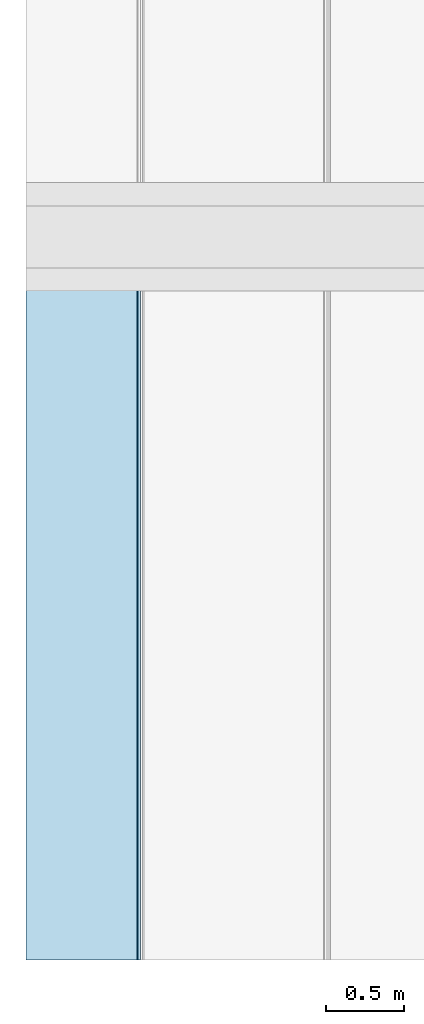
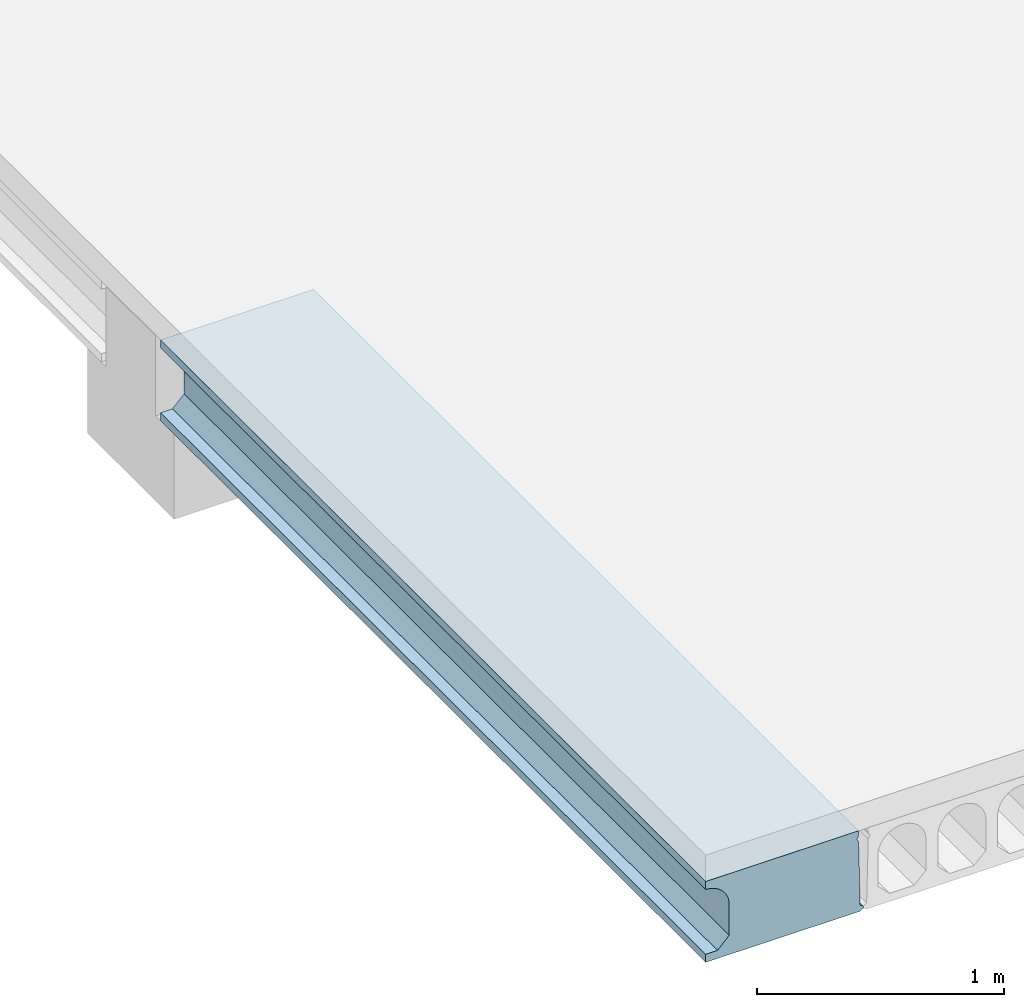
# One storey, part 38 of 98: 1 slab.
"""IFC2X3 building model written with IfcOpenShell, lengths in millimetres."""

from ifc_helpers import new_model, entity, si_unit, converted_unit, derived_unit, direction, frame, origin_with_axes, place, context, subcontext, project, spatial, faceted_brep, type_object, element, save


model = new_model("IFC2X3")

# Units and contexts
model_context = context("Model", 3, precision=0.01, world=frame((0.0, 4.29681676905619e-09, 0.0)), true_north=direction((4.01073788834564e-13, 1.0)))
plan_context = context("Plan", 3, precision=0.01, world=frame((0.0, 4.29681676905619e-09, 0.0)), true_north=direction((4.01073788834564e-13, 1.0)))
body_context = subcontext(model_context, "Body", "Model", "MODEL_VIEW")
ifc_project = project(units=[converted_unit("PLANEANGLEUNIT", "DEGREE", entity("IfcPositiveLengthMeasure", 0.0174532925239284), si_unit("PLANEANGLEUNIT", "RADIAN"), dimensions=[0, 0, 0, 0, 0, 0, 0]), si_unit("AREAUNIT", "SQUARE_METRE"), si_unit("LENGTHUNIT", "METRE", prefix="MILLI"), si_unit("MASSUNIT", "GRAM", prefix="KILO"), si_unit("POWERUNIT", "WATT"), si_unit("PRESSUREUNIT", "PASCAL"), si_unit("FORCEUNIT", "NEWTON", prefix="KILO"), si_unit("ELECTRICCURRENTUNIT", "AMPERE"), si_unit("THERMODYNAMICTEMPERATUREUNIT", "DEGREE_CELSIUS"), si_unit("TIMEUNIT", "SECOND"), si_unit("VOLUMEUNIT", "CUBIC_METRE"), derived_unit("LINEARVELOCITYUNIT", [(si_unit("LENGTHUNIT", "METRE"), 1), (si_unit("TIMEUNIT", "SECOND"), -1)]), derived_unit("VOLUMETRICFLOWRATEUNIT", [(si_unit("VOLUMEUNIT", "CUBIC_METRE"), 1), (si_unit("TIMEUNIT", "SECOND"), -1)]), derived_unit("THERMALTRANSMITTANCEUNIT", [(si_unit("POWERUNIT", "WATT"), 1), (si_unit("THERMODYNAMICTEMPERATUREUNIT", "KELVIN"), -1), (si_unit("AREAUNIT", "SQUARE_METRE"), -1)])], contexts=[model_context, plan_context])

# Site, building, storey
site_placement = place(None, frame((0.0, -4.29681676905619e-09, 0.0), z_axis=(0.0, 0.0, 1.0), x_axis=(1.0, 0.0, 0.0)))
site = spatial("IfcSite", under=ifc_project, at=site_placement, Name="Gardermoen", CompositionType="ELEMENT")
building_placement = place(site_placement, frame((0.0, 4.29681676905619e-09, 0.0), z_axis=(0.0, 0.0, 1.0), x_axis=(1.0, 0.0, 0.0)))
building = spatial("IfcBuilding", under=site, at=building_placement, Name="TS", CompositionType="ELEMENT")
storey_placement = place(building_placement, origin_with_axes())
storey = spatial("IfcBuildingStorey", under=building, at=storey_placement, Name="D", CompositionType="ELEMENT", Elevation=0.0)

# Slab
slab_type = type_object("IfcSlabType", Name="HD400", PredefinedType="NOTDEFINED")
slab_placement = place(storey_placement, frame((513999.999766, 396739.995625, 203600.0), z_axis=(0.0, 0.0, 1.0), x_axis=(0.0, 1.0, 0.0)))
element("IfcSlab", 1, at=slab_placement, inside=storey, type_object=slab_type, Name="HULLDEKKE", ObjectType="HD400", PredefinedType="FLOOR", context=body_context, shape_type="Brep", body=[
    faceted_brep([(4105.68103395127, -577.5, 200.0), (4105.68103395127, 137.499765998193, 200.0), (8520.0, 137.499765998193, 200.0), (8520.0, -577.5, 200.0), (4105.68103395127, -577.5, 175.0), (8520.0, -577.5, 175.0), (4105.68103395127, -570.0, 160.0), (8520.0, -570.0, 160.0), (4105.68103395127, -577.5, 145.0), (8520.0, -577.5, 145.0), (4105.68103395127, -585.0, -170.0), (8520.0, -585.0, -170.0), (4105.68103395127, -600.0, -180.0), (8520.0, -600.0, -180.0), (4105.68103395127, -600.0, -190.0), (8520.0, -600.0, -190.0), (4105.68103395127, -583.380004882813, -200.0), (8520.0, -583.380004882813, -200.0), (8520.0, 137.499765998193, -200.0), (4105.68103395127, 137.499765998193, -200.0), (4105.68103395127, -477.5, -160.0), (4105.68103395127, -362.499999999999, -160.0), (8520.0, -362.5, -160.0), (8520.0, -477.5, -160.0), (4105.68103395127, -532.5, -105.0), (8520.0, -532.5, -105.0), (4105.68103395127, -532.5, 47.5000000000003), (8520.0, -532.5, 47.5), (4105.68103395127, -532.11575546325, 56.7901763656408), (8520.0, -532.115755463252, 56.7901763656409), (4105.68103395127, -530.965646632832, 66.0168914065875), (8520.0, -530.965646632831, 66.0168914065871), (4105.68103395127, -529.057529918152, 75.1171173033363), (8520.0, -529.057529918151, 75.1171173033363), (4105.68103395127, -526.404439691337, 84.0286902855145), (8520.0, -526.404439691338, 84.028690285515), (4105.68103395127, -523.024499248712, 92.6907352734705), (8520.0, -523.024499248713, 92.6907352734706), (4105.68103395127, -518.940797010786, 101.044081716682), (8520.0, -518.940797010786, 101.044081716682), (4105.68103395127, -514.181228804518, 109.031667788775), (8520.0, -514.181228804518, 109.031667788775), (4105.68103395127, -508.778307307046, 116.598930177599), (8520.0, -508.778307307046, 116.598930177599), (4105.68103395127, -502.768939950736, 123.694176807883), (8520.0, -502.768939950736, 123.694176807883), (4105.68103395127, -496.194176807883, 130.268939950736), (8520.0, -496.194176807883, 130.268939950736), (4105.68103395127, -489.098930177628, 136.278307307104), (8520.0, -489.098930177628, 136.278307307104), (4105.68103395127, -481.531667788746, 141.681228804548), (8520.0, -481.531667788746, 141.681228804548), (4105.68103395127, -473.544081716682, 146.440797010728), (8520.0, -473.544081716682, 146.440797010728), (4105.68103395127, -465.190735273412, 150.524499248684), (8520.0, -465.190735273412, 150.524499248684), (4105.68103395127, -456.528690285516, 153.904439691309), (8520.0, -456.528690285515, 153.904439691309), (4105.68103395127, -447.617117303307, 156.55752991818), (8520.0, -447.617117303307, 156.55752991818), (4105.68103395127, -438.516891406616, 158.465646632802), (8520.0, -438.516891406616, 158.465646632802), (4105.68103395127, -429.290176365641, 159.615755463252), (8520.0, -429.290176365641, 159.615755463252), (4105.68103395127, -420.0, 160.0), (8520.0, -420.0, 160.0), (4105.68103395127, -410.709823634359, 159.615755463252), (8520.0, -410.709823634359, 159.615755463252), (4105.68103395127, -401.483108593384, 158.465646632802), (8520.0, -401.483108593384, 158.465646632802), (4105.68103395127, -392.382882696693, 156.55752991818), (8520.0, -392.382882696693, 156.55752991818), (4105.68103395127, -383.471309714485, 153.904439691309), (8520.0, -383.471309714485, 153.904439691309), (4105.68103395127, -374.809264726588, 150.524499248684), (8520.0, -374.809264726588, 150.524499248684), (4105.68103395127, -366.455918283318, 146.440797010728), (8520.0, -366.455918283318, 146.440797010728), (4105.68103395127, -358.468332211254, 141.681228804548), (8520.0, -358.468332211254, 141.681228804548), (4105.68103395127, -350.901069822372, 136.278307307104), (8520.0, -350.901069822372, 136.278307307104), (4105.68103395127, -343.805823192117, 130.268939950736), (8520.0, -343.805823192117, 130.268939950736), (4105.68103395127, -337.231060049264, 123.694176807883), (8520.0, -337.231060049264, 123.694176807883), (4105.68103395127, -331.221692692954, 116.598930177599), (8520.0, -331.221692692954, 116.598930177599), (4105.68103395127, -325.818771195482, 109.031667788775), (8520.0, -325.818771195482, 109.031667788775), (4105.68103395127, -321.059202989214, 101.044081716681), (8520.0, -321.059202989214, 101.044081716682), (4105.68103395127, -316.975500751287, 92.69073527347), (8520.0, -316.975500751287, 92.6907352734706), (4105.68103395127, -313.595560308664, 84.028690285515), (8520.0, -313.595560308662, 84.028690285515), (4105.68103395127, -310.942470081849, 75.1171173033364), (8520.0, -310.942470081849, 75.1171173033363), (4105.68103395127, -309.034353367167, 66.0168914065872), (8520.0, -309.034353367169, 66.0168914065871), (4105.68103395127, -307.884244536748, 56.7901763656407), (8520.0, -307.884244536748, 56.7901763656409), (4105.68103395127, -307.500000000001, 47.4999999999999), (8520.0, -307.5, 47.5), (4105.68103395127, -307.500000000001, -105.0), (8520.0, -307.5, -105.0), (4105.68103395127, -197.499999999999, -160.0), (4105.68103395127, -82.5000000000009, -160.0), (8520.0, -82.5, -160.0), (8520.0, -197.5, -160.0), (4105.68103395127, -252.5, -105.0), (8520.0, -252.5, -105.0), (4105.68103395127, -252.5, 47.5000000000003), (8520.0, -252.5, 47.5), (4105.68103395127, -252.115755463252, 56.7901763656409), (8520.0, -252.115755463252, 56.7901763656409), (4105.68103395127, -250.96564663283, 66.0168914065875), (8520.0, -250.965646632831, 66.0168914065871), (4105.68103395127, -249.057529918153, 75.1171173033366), (8520.0, -249.057529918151, 75.1171173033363), (4105.68103395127, -246.404439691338, 84.0286902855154), (8520.0, -246.404439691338, 84.028690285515), (4105.68103395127, -243.024499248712, 92.6907352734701), (8520.0, -243.024499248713, 92.6907352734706), (4105.68103395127, -238.940797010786, 101.044081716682), (8520.0, -238.940797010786, 101.044081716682), (4105.68103395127, -234.181228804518, 109.031667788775), (8520.0, -234.181228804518, 109.031667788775), (4105.68103395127, -228.778307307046, 116.5989301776), (8520.0, -228.778307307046, 116.598930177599), (4105.68103395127, -222.768939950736, 123.694176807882), (8520.0, -222.768939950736, 123.694176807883), (4105.68103395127, -216.194176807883, 130.268939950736), (8520.0, -216.194176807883, 130.268939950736), (4105.68103395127, -209.098930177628, 136.278307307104), (8520.0, -209.098930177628, 136.278307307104), (4105.68103395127, -201.531667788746, 141.681228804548), (8520.0, -201.531667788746, 141.681228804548), (4105.68103395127, -193.544081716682, 146.440797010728), (8520.0, -193.544081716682, 146.440797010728), (4105.68103395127, -185.190735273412, 150.524499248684), (8520.0, -185.190735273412, 150.524499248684), (4105.68103395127, -176.528690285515, 153.904439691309), (8520.0, -176.528690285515, 153.904439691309), (4105.68103395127, -167.617117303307, 156.55752991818), (8520.0, -167.617117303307, 156.55752991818), (4105.68103395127, -158.516891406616, 158.465646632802), (8520.0, -158.516891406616, 158.465646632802), (4105.68103395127, -149.290176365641, 159.615755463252), (8520.0, -149.290176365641, 159.615755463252), (4105.68103395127, -140.0, 160.0), (8520.0, -140.0, 160.0), (4105.68103395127, -130.709823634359, 159.615755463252), (8520.0, -130.709823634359, 159.615755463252), (4105.68103395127, -121.483108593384, 158.465646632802), (8520.0, -121.483108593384, 158.465646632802), (4105.68103395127, -112.382882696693, 156.55752991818), (8520.0, -112.382882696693, 156.55752991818), (4105.68103395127, -103.471309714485, 153.904439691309), (8520.0, -103.471309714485, 153.904439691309), (4105.68103395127, -94.8092647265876, 150.524499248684), (8520.0, -94.8092647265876, 150.524499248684), (4105.68103395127, -86.4559182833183, 146.440797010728), (8520.0, -86.4559182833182, 146.440797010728), (4105.68103395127, -78.4683322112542, 141.681228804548), (8520.0, -78.4683322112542, 141.681228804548), (4105.68103395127, -70.9010698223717, 136.278307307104), (8520.0, -70.9010698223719, 136.278307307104), (4105.68103395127, -63.8058231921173, 130.268939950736), (8520.0, -63.8058231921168, 130.268939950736), (4105.68103395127, -57.2310600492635, 123.694176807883), (8520.0, -57.2310600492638, 123.694176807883), (4105.68103395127, -51.2216926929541, 116.598930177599), (8520.0, -51.2216926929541, 116.598930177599), (4105.68103395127, -45.8187711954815, 109.031667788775), (8520.0, -45.8187711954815, 109.031667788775), (4105.68103395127, -41.0592029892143, 101.044081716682), (8520.0, -41.0592029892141, 101.044081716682), (4105.68103395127, -36.9755007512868, 92.6907352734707), (8520.0, -36.9755007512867, 92.6907352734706), (4105.68103395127, -33.5955603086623, 84.0286902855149), (8520.0, -33.5955603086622, 84.028690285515), (4105.68103395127, -30.942470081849, 75.1171173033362), (8520.0, -30.942470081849, 75.1171173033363), (4105.68103395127, -29.0343533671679, 66.0168914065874), (8520.0, -29.0343533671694, 66.0168914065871), (4105.68103395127, -27.8842445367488, 56.7901763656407), (8520.0, -27.8842445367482, 56.7901763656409), (4105.68103395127, -27.4999999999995, 47.5000000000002), (8520.0, -27.5, 47.5), (4105.68103395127, -27.5000000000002, -105.0), (8520.0, -27.5, -105.0), (4105.68103395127, 82.5, -160.0), (4105.68103395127, 137.499765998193, -160.0), (8520.0, 137.499765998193, -160.0), (8520.0, 82.5, -160.0), (4105.68103395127, 27.5, -105.0), (8520.0, 27.5, -105.0), (4105.68103395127, 27.5, 47.5), (8520.0, 27.5, 47.5), (4105.68103395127, 27.8842445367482, 56.7901763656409), (8520.0, 27.8842445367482, 56.7901763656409), (4105.68103395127, 29.0343533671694, 66.0168914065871), (8520.0, 29.0343533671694, 66.0168914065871), (4105.68103395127, 30.942470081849, 75.1171173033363), (8520.0, 30.942470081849, 75.1171173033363), (4105.68103395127, 33.5955603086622, 84.028690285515), (8520.0, 33.5955603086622, 84.028690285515), (4105.68103395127, 36.9755007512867, 92.6907352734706), (8520.0, 36.9755007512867, 92.6907352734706), (4105.68103395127, 41.0592029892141, 101.044081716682), (8520.0, 41.0592029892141, 101.044081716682), (4105.68103395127, 45.8187711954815, 109.031667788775), (8520.0, 45.8187711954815, 109.031667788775), (4105.68103395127, 51.2216926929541, 116.598930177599), (8520.0, 51.2216926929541, 116.598930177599), (4105.68103395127, 57.2310600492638, 123.694176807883), (8520.0, 57.2310600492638, 123.694176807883), (4105.68103395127, 63.8058231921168, 130.268939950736), (8520.0, 63.8058231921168, 130.268939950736), (4105.68103395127, 70.9010698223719, 136.278307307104), (8520.0, 70.9010698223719, 136.278307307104), (4105.68103395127, 78.4683322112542, 141.681228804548), (8520.0, 78.4683322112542, 141.681228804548), (4105.68103395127, 86.4559182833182, 146.440797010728), (8520.0, 86.4559182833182, 146.440797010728), (4105.68103395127, 94.8092647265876, 150.524499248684), (8520.0, 94.8092647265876, 150.524499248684), (4105.68103395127, 103.471309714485, 153.904439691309), (8520.0, 103.471309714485, 153.904439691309), (4105.68103395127, 112.382882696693, 156.55752991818), (8520.0, 112.382882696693, 156.55752991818), (4105.68103395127, 121.483108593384, 158.465646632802), (8520.0, 121.483108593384, 158.465646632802), (4105.68103395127, 130.709823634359, 159.615755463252), (8520.0, 130.709823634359, 159.615755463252), (8520.0, 137.499765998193, 159.896589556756), (4105.68103395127, 137.499765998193, 159.896589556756)], [[[0, 1, 2, 3]], [[4, 0, 3, 5]], [[6, 4, 5, 7]], [[8, 6, 7, 9]], [[10, 8, 9, 11]], [[12, 10, 11, 13]], [[14, 12, 13, 15]], [[16, 14, 15, 17]], [[18, 19, 16, 17]], [[20, 21, 22, 23]], [[24, 20, 23, 25]], [[26, 24, 25, 27]], [[28, 26, 27, 29]], [[30, 28, 29, 31]], [[32, 30, 31, 33]], [[34, 32, 33, 35]], [[36, 34, 35, 37]], [[38, 36, 37, 39]], [[40, 38, 39, 41]], [[42, 40, 41, 43]], [[44, 42, 43, 45]], [[46, 44, 45, 47]], [[48, 46, 47, 49]], [[50, 48, 49, 51]], [[52, 50, 51, 53]], [[54, 52, 53, 55]], [[56, 54, 55, 57]], [[58, 56, 57, 59]], [[60, 58, 59, 61]], [[62, 60, 61, 63]], [[64, 62, 63, 65]], [[66, 64, 65, 67]], [[68, 66, 67, 69]], [[70, 68, 69, 71]], [[72, 70, 71, 73]], [[74, 72, 73, 75]], [[76, 74, 75, 77]], [[78, 76, 77, 79]], [[80, 78, 79, 81]], [[82, 80, 81, 83]], [[84, 82, 83, 85]], [[86, 84, 85, 87]], [[88, 86, 87, 89]], [[90, 88, 89, 91]], [[92, 90, 91, 93]], [[94, 92, 93, 95]], [[96, 94, 95, 97]], [[98, 96, 97, 99]], [[100, 98, 99, 101]], [[102, 100, 101, 103]], [[104, 102, 103, 105]], [[21, 104, 105, 22]], [[106, 107, 108, 109]], [[110, 106, 109, 111]], [[112, 110, 111, 113]], [[114, 112, 113, 115]], [[116, 114, 115, 117]], [[118, 116, 117, 119]], [[120, 118, 119, 121]], [[122, 120, 121, 123]], [[124, 122, 123, 125]], [[126, 124, 125, 127]], [[128, 126, 127, 129]], [[130, 128, 129, 131]], [[132, 130, 131, 133]], [[134, 132, 133, 135]], [[136, 134, 135, 137]], [[138, 136, 137, 139]], [[140, 138, 139, 141]], [[142, 140, 141, 143]], [[144, 142, 143, 145]], [[146, 144, 145, 147]], [[148, 146, 147, 149]], [[150, 148, 149, 151]], [[152, 150, 151, 153]], [[154, 152, 153, 155]], [[156, 154, 155, 157]], [[158, 156, 157, 159]], [[160, 158, 159, 161]], [[162, 160, 161, 163]], [[164, 162, 163, 165]], [[166, 164, 165, 167]], [[168, 166, 167, 169]], [[170, 168, 169, 171]], [[172, 170, 171, 173]], [[174, 172, 173, 175]], [[176, 174, 175, 177]], [[178, 176, 177, 179]], [[180, 178, 179, 181]], [[182, 180, 181, 183]], [[184, 182, 183, 185]], [[186, 184, 185, 187]], [[188, 186, 187, 189]], [[190, 188, 189, 191]], [[107, 190, 191, 108]], [[192, 193, 194, 195]], [[196, 192, 195, 197]], [[198, 196, 197, 199]], [[200, 198, 199, 201]], [[202, 200, 201, 203]], [[204, 202, 203, 205]], [[206, 204, 205, 207]], [[208, 206, 207, 209]], [[210, 208, 209, 211]], [[212, 210, 211, 213]], [[214, 212, 213, 215]], [[216, 214, 215, 217]], [[218, 216, 217, 219]], [[220, 218, 219, 221]], [[222, 220, 221, 223]], [[224, 222, 223, 225]], [[226, 224, 225, 227]], [[228, 226, 227, 229]], [[230, 228, 229, 231]], [[232, 230, 231, 233]], [[234, 232, 233, 235]], [[236, 237, 234, 235]], [[2, 236, 235, 233, 231, 229, 227, 225, 223, 221, 219, 217, 215, 213, 211, 209, 207, 205, 203, 201, 199, 197, 195, 194, 18, 17, 15, 13, 11, 9, 7, 5, 3], [109, 108, 191, 189, 187, 185, 183, 181, 179, 177, 175, 173, 171, 169, 167, 165, 163, 161, 159, 157, 155, 153, 151, 149, 147, 145, 143, 141, 139, 137, 135, 133, 131, 129, 127, 125, 123, 121, 119, 117, 115, 113, 111], [23, 22, 105, 103, 101, 99, 97, 95, 93, 91, 89, 87, 85, 83, 81, 79, 77, 75, 73, 71, 69, 67, 65, 63, 61, 59, 57, 55, 53, 51, 49, 47, 45, 43, 41, 39, 37, 35, 33, 31, 29, 27, 25]], [[237, 236, 2, 1]], [[19, 18, 194, 193]], [[1, 0, 4, 6, 8, 10, 12, 14, 16, 19, 193, 192, 196, 198, 200, 202, 204, 206, 208, 210, 212, 214, 216, 218, 220, 222, 224, 226, 228, 230, 232, 234, 237]]], orient=[[False], [False], [False], [False], [False], [False], [False], [False], [False], [False], [False], [False], [False], [False], [False], [False], [False], [False], [False], [False], [False], [False], [False], [False], [False], [False], [False], [False], [False], [False], [False], [False], [False], [False], [False], [False], [False], [False], [False], [False], [False], [False], [False], [False], [False], [False], [False], [False], [False], [False], [False], [False], [False], [False], [False], [False], [False], [False], [False], [False], [False], [False], [False], [False], [False], [False], [False], [False], [False], [False], [False], [False], [False], [False], [False], [False], [False], [False], [False], [False], [False], [False], [False], [False], [False], [False], [False], [False], [False], [False], [False], [False], [False], [False], [False], [False], [False], [False], [False], [False], [False], [False], [False], [False], [False], [False], [False], [False], [False], [False], [False], [False], [False], [False], [False], [False], [False], [False, False, False], [False], [False], [False]]),
])

save(model, "model.ifc")
